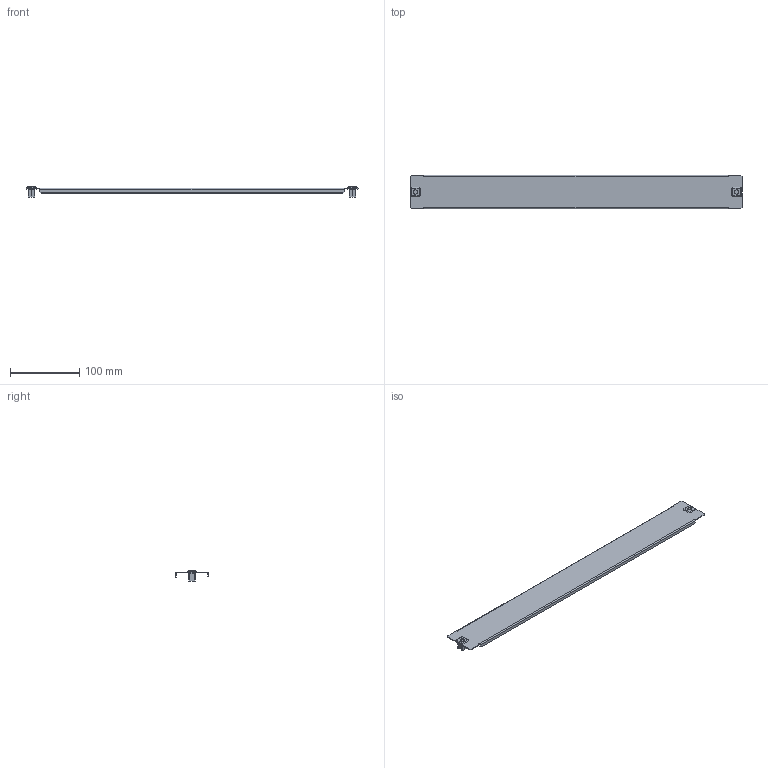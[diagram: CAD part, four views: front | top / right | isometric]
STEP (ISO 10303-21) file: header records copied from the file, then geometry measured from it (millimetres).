
FILE_DESCRIPTION(('CAx-IF Rec.Pracs.---Model Styling and Organization---1.2---2011-12-15','CAx-IF Rec.Pracs.---Geometric and Assembly Validation Properties---4.1---2014-06-16','CAx-IF Rec.Pracs.---PMI Polyline Presentation---2.0---2013-05-24'),'2;1');
FILE_NAME('R5FPI605.stp','2021-05-06T04:05:39+03:00',(''),(''),'STEP Interface 4.4 by CT CoreTechnologie','3D_Evolution4.4 by CT CoreTechnologie','');
FILE_SCHEMA(('AUTOMOTIVE_DESIGN { 1 0 10303 214 1 1 1 1 }'));
Length unit declared in the file: millimetre
Products named in the file (6): R5FPI605; 294-9118.00-00050(1); 294-9118.00-00050(2); RB.0376.00.00.0_-00; RB.0587.00.00.1_-00; 294-9118.00-00050(3)
Assembly tree (7 placements, depth 3):
  R5FPI605
    294-9118.00-00050(1)
      294-9118.00-00050(2)
      RB.0376.00.00.0_-00
    RB.0587.00.00.1_-00
    294-9118.00-00050(3)
      294-9118.00-00050(2)
      RB.0376.00.00.0_-00
Bounding box: 481 x 48 x 14.5 mm (x, y, z)
Surface area: 59048.5 mm2 (no closed solid volume)
Topology: 0 solids, 11 shells, 184 faces, 480 edges, 312 vertices
Faces by surface type: plane 160, cylinder 16, bspline 8
Entity records: 4131 total; most frequent: CARTESIAN_POINT 769, ORIENTED_EDGE 652, DIRECTION 604, EDGE_CURVE 326, VECTOR 302, LINE 302, VERTEX_POINT 216, AXIS2_PLACEMENT_3D 151
